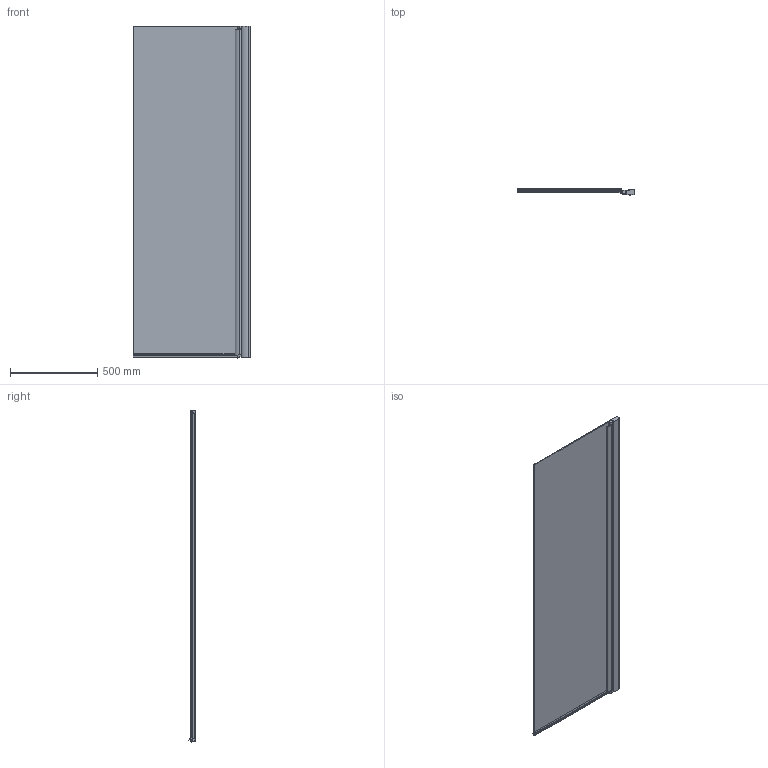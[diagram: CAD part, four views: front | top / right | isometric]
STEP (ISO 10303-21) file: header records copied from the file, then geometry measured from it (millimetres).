
FILE_DESCRIPTION(/* description */ (''),/* implementation_level */ '2;1');
FILE_NAME(/* name */ 'D:\!\9\LUX DOOR GK-601P\LUX DOOR GK-601P правая модель\LUX DOOR GK-601P ПРАВАЯ-3D.stp',/* time_stamp */ '2020-04-07T14:02:30+03:00',/* author */ ('User'),/* organization */ (''),/* preprocessor_version */ 'ST-DEVELOPER v15.2',/* originating_system */ 'Autodesk Inventor 2014',/* authorisation */ '');
FILE_SCHEMA (('AUTOMOTIVE_DESIGN { 1 0 10303 214 3 1 1 }'));
Length unit declared in the file: millimetre
Products named in the file (1): LUX DOOR GK-601P ПРАВАЯ-3D
Bounding box: 675 x 36.27 x 1904.24 mm (x, y, z)
Volume: 10124435.8 mm3; surface area: 2898793.8 mm2
Topology: 1 solids, 1 shells, 220 faces, 647 edges, 426 vertices
Faces by surface type: plane 146, cylinder 70, cone 4
Full cylindrical faces by diameter (mm): 5 x1, 7.8 x1, 16.9 x1
Entity records: 7649 total; most frequent: CARTESIAN_POINT 1356, ORIENTED_EDGE 1282, DIRECTION 1248, EDGE_CURVE 641, LINE 460, VECTOR 460, VERTEX_POINT 424, AXIS2_PLACEMENT_3D 394
